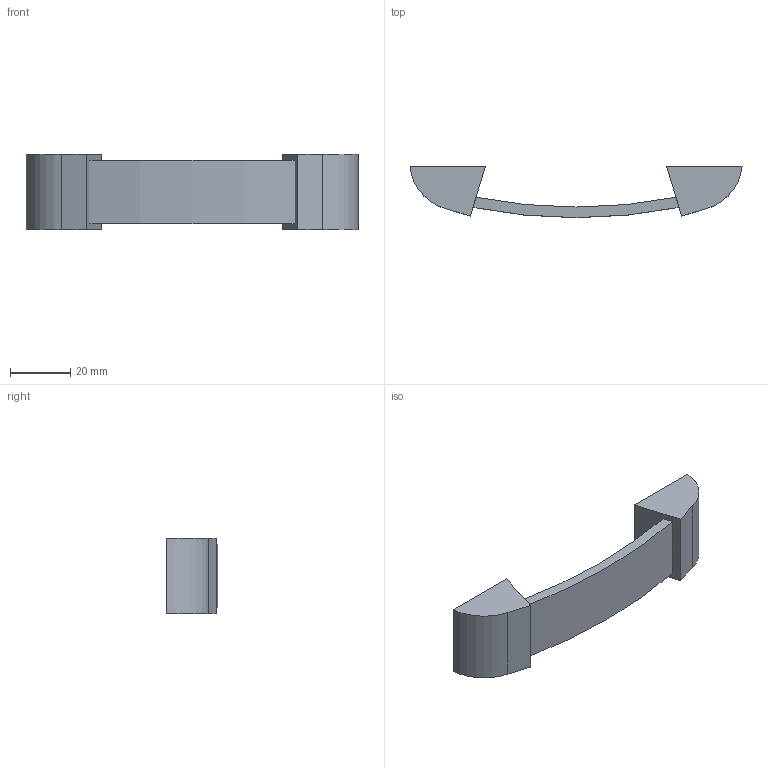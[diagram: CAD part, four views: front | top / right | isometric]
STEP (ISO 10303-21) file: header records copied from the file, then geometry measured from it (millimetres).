
FILE_DESCRIPTION( ( '' ), '1' );
FILE_NAME( 'C:/Documents and Settings/Sachin/Desktop/Sheet 10_1/stp/9113453.stp', '2013-10-22T06:15:50', ( '' ), ( '' ), ' ', ' ', ' ' );
FILE_SCHEMA( ( 'CONFIG_CONTROL_DESIGN' ) );
Length unit declared in the file: millimetre
Products named in the file (1): 1
Bounding box: 110 x 17 x 25 mm (x, y, z)
Volume: 19012.7 mm3; surface area: 8025 mm2
Topology: 1 solids, 1 shells, 22 faces, 48 edges, 32 vertices
Faces by surface type: plane 14, cylinder 8
Entity records: 652 total; most frequent: DIRECTION 110, CARTESIAN_POINT 103, ORIENTED_EDGE 96, EDGE_CURVE 48, AXIS2_PLACEMENT_3D 39, VERTEX_POINT 32, LINE 32, VECTOR 32
